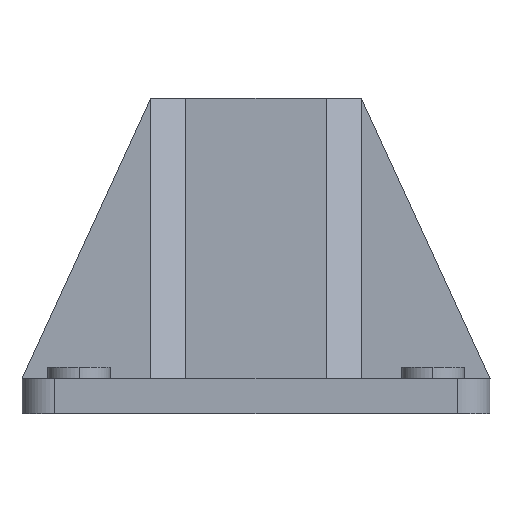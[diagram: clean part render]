
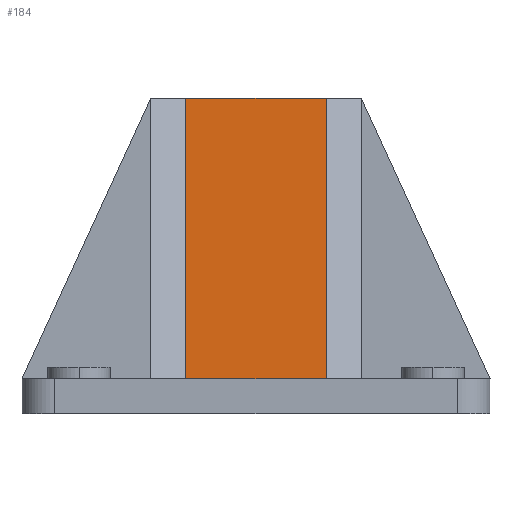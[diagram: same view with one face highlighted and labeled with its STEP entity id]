
A CAD part, left-side view. The second image highlights one B-rep face of the part: STEP entity #184.
In plain terms, the highlighted planar face has unit normal (-1, 0, 0).
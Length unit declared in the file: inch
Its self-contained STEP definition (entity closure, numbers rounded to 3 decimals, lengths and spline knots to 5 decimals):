
#184=ADVANCED_FACE('',(#455),#456,.T.);
#455=FACE_OUTER_BOUND('',#942,.T.);
#456=PLANE('',#943);
#942=EDGE_LOOP('',(#1757,#1758,#1759,#1760,#1761,#1762,#1763,#1764));
#943=AXIS2_PLACEMENT_3D('',#1765,#1766,#1767);
#1757=ORIENTED_EDGE('',*,*,#2611,.T.);
#1758=ORIENTED_EDGE('',*,*,#2612,.T.);
#1759=ORIENTED_EDGE('',*,*,#2613,.T.);
#1760=ORIENTED_EDGE('',*,*,#2614,.T.);
#1761=ORIENTED_EDGE('',*,*,#2615,.T.);
#1762=ORIENTED_EDGE('',*,*,#2616,.F.);
#1763=ORIENTED_EDGE('',*,*,#2617,.F.);
#1764=ORIENTED_EDGE('',*,*,#2618,.T.);
#1765=CARTESIAN_POINT('',(1.08749,2.49999,0.375));
#1766=DIRECTION('',(-1.0,0.0,0.0));
#1767=DIRECTION('',(0.0,-1.0,0.0));
#2611=EDGE_CURVE('',#3119,#3120,#3121,.T.);
#2612=EDGE_CURVE('',#3120,#3122,#3123,.T.);
#2613=EDGE_CURVE('',#3122,#3124,#3125,.T.);
#2614=EDGE_CURVE('',#3124,#3126,#3127,.T.);
#2615=EDGE_CURVE('',#3126,#3128,#3129,.T.);
#2616=EDGE_CURVE('',#3130,#3128,#3131,.T.);
#2617=EDGE_CURVE('',#3132,#3130,#3133,.T.);
#2618=EDGE_CURVE('',#3132,#3119,#3134,.T.);
#3119=VERTEX_POINT('',#3909);
#3120=VERTEX_POINT('',#3910);
#3121=LINE('',#3911,#3912);
#3122=VERTEX_POINT('',#3913);
#3123=LINE('',#3914,#3915);
#3124=VERTEX_POINT('',#3916);
#3125=LINE('',#3917,#3918);
#3126=VERTEX_POINT('',#3919);
#3127=LINE('',#3920,#3921);
#3128=VERTEX_POINT('',#3922);
#3129=LINE('',#3923,#3924);
#3130=VERTEX_POINT('',#3925);
#3131=LINE('',#3926,#3927);
#3132=VERTEX_POINT('',#3928);
#3133=LINE('',#3929,#3930);
#3134=LINE('',#3931,#3932);
#3909=CARTESIAN_POINT('',(1.08749,1.37499,0.37501));
#3910=CARTESIAN_POINT('',(1.08749,1.74999,0.37501));
#3911=CARTESIAN_POINT('',(1.08749,1.93749,0.37501));
#3912=VECTOR('',#4828,1.0);
#3913=CARTESIAN_POINT('',(1.08749,1.74999,3.375));
#3914=CARTESIAN_POINT('',(1.08749,1.74999,0.98614));
#3915=VECTOR('',#4829,1.0);
#3916=CARTESIAN_POINT('',(1.08749,3.24999,3.375));
#3917=CARTESIAN_POINT('',(1.08749,1.37499,3.375));
#3918=VECTOR('',#4830,1.);
#3919=CARTESIAN_POINT('',(1.08749,3.24999,0.37501));
#3920=CARTESIAN_POINT('',(1.08749,3.24999,0.98614));
#3921=VECTOR('',#4831,1.0);
#3922=CARTESIAN_POINT('',(1.08749,3.62499,0.37501));
#3923=CARTESIAN_POINT('',(1.08749,2.87499,0.37501));
#3924=VECTOR('',#4832,1.0);
#3925=CARTESIAN_POINT('',(1.08749,3.62499,0.375));
#3926=CARTESIAN_POINT('',(1.08749,3.62499,0.375));
#3927=VECTOR('',#4833,1.);
#3928=CARTESIAN_POINT('',(1.08749,1.37499,0.375));
#3929=CARTESIAN_POINT('',(1.08749,2.49999,0.375));
#3930=VECTOR('',#4834,1.0);
#3931=CARTESIAN_POINT('',(1.08749,1.37499,0.375));
#3932=VECTOR('',#4835,1.);
#4828=DIRECTION('',(-0.0,1.0,-0.0));
#4829=DIRECTION('',(0.0,0.0,1.0));
#4830=DIRECTION('',(0.0,1.0,0.0));
#4831=DIRECTION('',(-0.0,0.0,-1.0));
#4832=DIRECTION('',(-0.0,1.0,-0.0));
#4833=DIRECTION('',(0.0,0.0,1.0));
#4834=DIRECTION('',(0.0,1.0,0.0));
#4835=DIRECTION('',(0.0,0.0,1.0));
